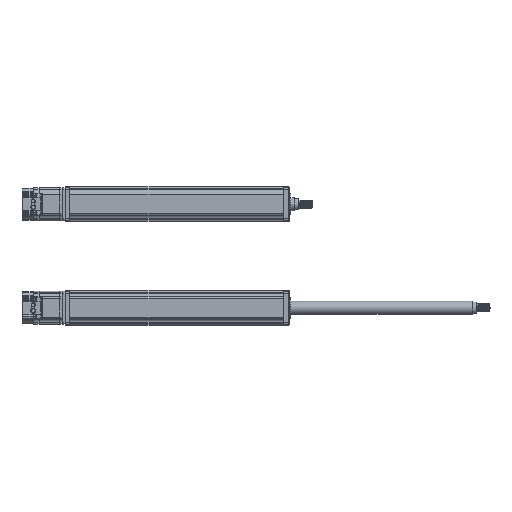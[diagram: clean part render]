
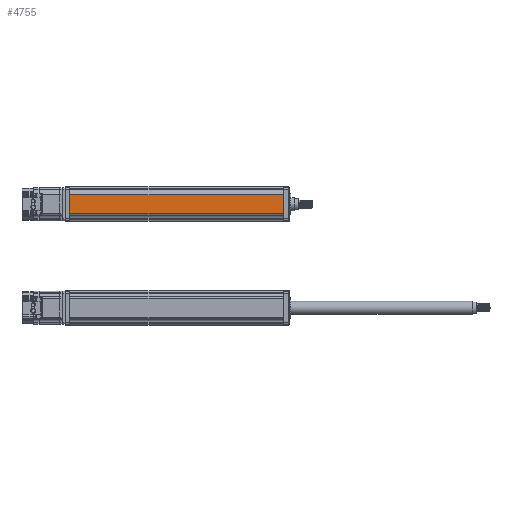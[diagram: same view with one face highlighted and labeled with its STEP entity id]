
A CAD part, top view. The second image highlights one B-rep face of the part: STEP entity #4755.
In plain terms, the highlighted planar face has unit normal (0, 0, 1).
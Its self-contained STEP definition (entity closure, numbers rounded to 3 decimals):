
#4755=ADVANCED_FACE('',(#9871),#9872,.F.);
#9871=FACE_OUTER_BOUND('',#22944,.T.);
#9872=PLANE('',#22945);
#22944=EDGE_LOOP('',(#38852,#38853,#38854,#38855));
#22945=AXIS2_PLACEMENT_3D('',#38856,#38857,#38858);
#38852=ORIENTED_EDGE('',*,*,#49207,.F.);
#38853=ORIENTED_EDGE('',*,*,#45228,.F.);
#38854=ORIENTED_EDGE('',*,*,#50486,.F.);
#38855=ORIENTED_EDGE('',*,*,#45203,.F.);
#38856=CARTESIAN_POINT('',(604.0,182.885,13.693));
#38857=DIRECTION('',(0.,0.,-1.0));
#38858=DIRECTION('',(1.0,0.,0.));
#45203=EDGE_CURVE('',#52325,#52327,#52328,.T.);
#45228=EDGE_CURVE('',#52372,#52374,#52375,.T.);
#49207=EDGE_CURVE('',#52374,#52325,#58827,.T.);
#50486=EDGE_CURVE('',#52327,#52372,#60484,.T.);
#52325=VERTEX_POINT('',#63224);
#52327=VERTEX_POINT('',#63226);
#52328=LINE('',#63227,#63228);
#52372=VERTEX_POINT('',#63286);
#52374=VERTEX_POINT('',#63288);
#52375=LINE('',#63289,#63290);
#58827=LINE('',#90298,#90299);
#60484=LINE('',#100665,#100666);
#63224=CARTESIAN_POINT('',(604.0,150.885,13.693));
#63226=CARTESIAN_POINT('',(604.0,182.885,13.693));
#63227=CARTESIAN_POINT('',(604.0,166.885,13.693));
#63228=VECTOR('',#105795,1.0);
#63286=CARTESIAN_POINT('',(964.0,182.885,13.693));
#63288=CARTESIAN_POINT('',(964.0,150.885,13.693));
#63289=CARTESIAN_POINT('',(964.0,166.885,13.693));
#63290=VECTOR('',#105831,1.0);
#90298=CARTESIAN_POINT('',(784.0,150.885,13.693));
#90299=VECTOR('',#110234,2.25);
#100665=CARTESIAN_POINT('',(784.0,182.885,13.693));
#100666=VECTOR('',#111401,2.25);
#105795=DIRECTION('',(0.,1.0,0.0));
#105831=DIRECTION('',(0.,-1.0,0.0));
#110234=DIRECTION('',(-1.0,0.,0.));
#111401=DIRECTION('',(1.0,0.,0.));
